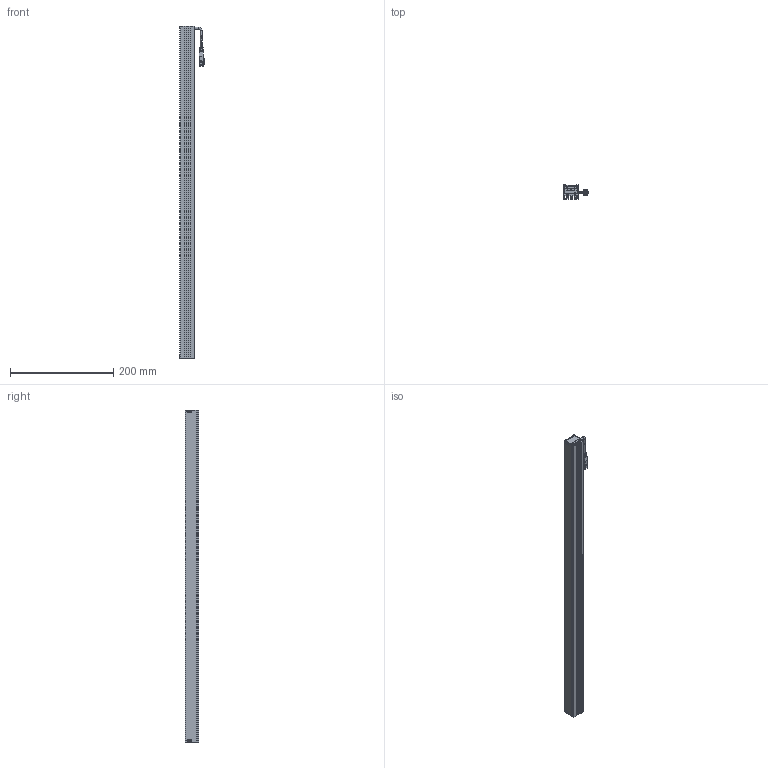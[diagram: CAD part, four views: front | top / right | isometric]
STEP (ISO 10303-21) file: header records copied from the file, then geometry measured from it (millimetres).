
FILE_DESCRIPTION (( 'STEP AP203' ), '1' );
FILE_NAME ('CST-2BS64228-¼òÒ×3DÍ¼.STEP', '2021-06-15T03:08:24', ( '' ), ( '' ), 'SwSTEP 2.0', 'SolidWorks 2018', '' );
FILE_SCHEMA (( 'CONFIG_CONTROL_DESIGN' ));
Length unit declared in the file: millimetre
Products named in the file (1): CST-2BS64228-潠眢3D芞
Bounding box: 46.62 x 27 x 642 mm (x, y, z)
Surface area: 222390.1 mm2 (no closed solid volume)
Topology: 0 solids, 20 shells, 568 faces, 1498 edges, 953 vertices
Faces by surface type: plane 329, cylinder 154, cone 51, bspline 28, torus 6
Entity records: 18008 total; most frequent: CARTESIAN_POINT 4060, ORIENTED_EDGE 2909, DIRECTION 2817, EDGE_CURVE 1478, LINE 1037, VECTOR 1037, VERTEX_POINT 953, AXIS2_PLACEMENT_3D 890
